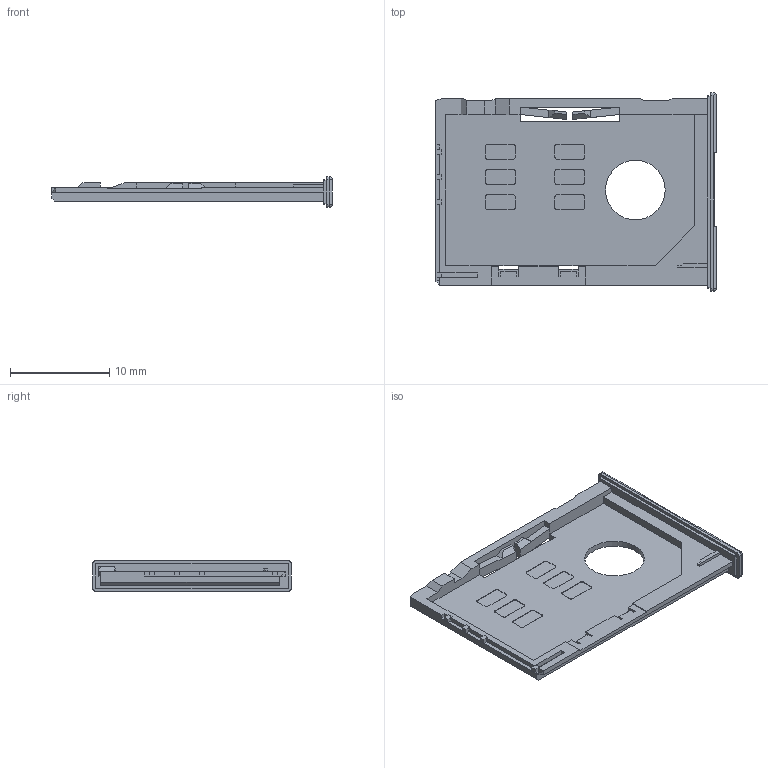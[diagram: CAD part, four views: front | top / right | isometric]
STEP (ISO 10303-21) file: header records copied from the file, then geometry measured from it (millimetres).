
FILE_DESCRIPTION((''),'2;1');
FILE_NAME('912360001','2014-07-25T',('me'),(''),'PRO/ENGINEER BY PARAMETRIC TECHNOLOGY CORPORATION, 2011490','PRO/ENGINEER BY PARAMETRIC TECHNOLOGY CORPORATION, 2011490','');
FILE_SCHEMA(('CONFIG_CONTROL_DESIGN'));
Length unit declared in the file: millimetre
Products named in the file (1): 912360001
Bounding box: 28.25 x 20 x 3.1 mm (x, y, z)
Volume: 427.6 mm3; surface area: 1336.1 mm2
Topology: 1 solids, 1 shells, 224 faces, 620 edges, 404 vertices
Faces by surface type: plane 184, cylinder 38, sphere 2
Entity records: 7123 total; most frequent: CARTESIAN_POINT 1293, ORIENTED_EDGE 1238, DIRECTION 1138, EDGE_CURVE 619, VECTOR 540, LINE 540, VERTEX_POINT 402, AXIS2_PLACEMENT_3D 299
